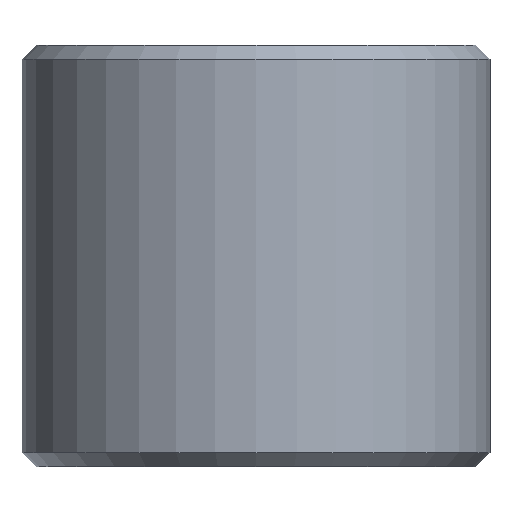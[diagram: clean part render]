
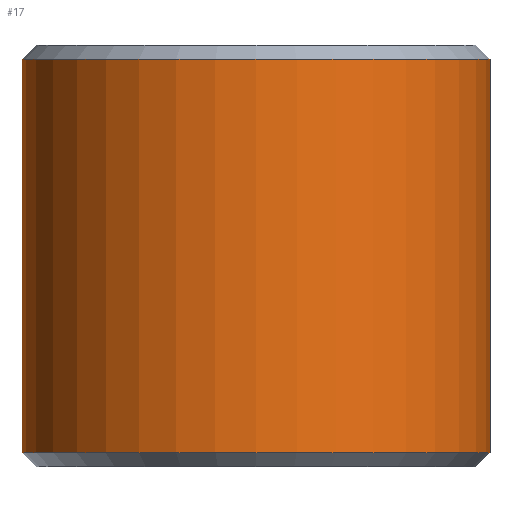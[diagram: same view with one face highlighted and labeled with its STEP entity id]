
A CAD part, front view. The second image highlights one B-rep face of the part: STEP entity #17.
In plain terms, the highlighted cylindrical face has radius 50 mm (diameter 100 mm), a partial arc.
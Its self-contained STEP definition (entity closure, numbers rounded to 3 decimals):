
#17 = ADVANCED_FACE ( 'NONE', ( #291 ), #151, .T. ) ;
#24 = CARTESIAN_POINT ( 'NONE',  ( -50., 0., -42. ) ) ;
#33 = CARTESIAN_POINT ( 'NONE',  ( 50., 0., 42. ) ) ;
#34 = ORIENTED_EDGE ( 'NONE', *, *, #235, .T. ) ;
#42 = AXIS2_PLACEMENT_3D ( 'NONE', #237, #58, #340 ) ;
#58 = DIRECTION ( 'NONE',  ( 0., 0., 1. ) ) ;
#61 = CIRCLE ( 'NONE', #42, 50. ) ;
#66 = EDGE_LOOP ( 'NONE', ( #395, #256, #34, #387 ) ) ;
#75 = VERTEX_POINT ( 'NONE', #304 ) ;
#76 = DIRECTION ( 'NONE',  ( 1., 0., 0. ) ) ;
#79 = VECTOR ( 'NONE', #191, 1000. ) ;
#85 = DIRECTION ( 'NONE',  ( 0., 0., -1. ) ) ;
#94 = CARTESIAN_POINT ( 'NONE',  ( -50., 0., 45. ) ) ;
#112 = CARTESIAN_POINT ( 'NONE',  ( 0., 0., 45. ) ) ;
#113 = CIRCLE ( 'NONE', #127, 50. ) ;
#127 = AXIS2_PLACEMENT_3D ( 'NONE', #285, #245, #76 ) ;
#151 = CYLINDRICAL_SURFACE ( 'NONE', #249, 50. ) ;
#171 = VERTEX_POINT ( 'NONE', #33 ) ;
#191 = DIRECTION ( 'NONE',  ( 0., 0., -1. ) ) ;
#219 = DIRECTION ( 'NONE',  ( -1., 0., 0. ) ) ;
#222 = EDGE_CURVE ( 'NONE', #171, #384, #228, .T. ) ;
#228 = LINE ( 'NONE', #305, #79 ) ;
#235 = EDGE_CURVE ( 'NONE', #75, #258, #400, .T. ) ;
#237 = CARTESIAN_POINT ( 'NONE',  ( 0., 0., -42. ) ) ;
#245 = DIRECTION ( 'NONE',  ( 0., 0., -1. ) ) ;
#249 = AXIS2_PLACEMENT_3D ( 'NONE', #112, #85, #219 ) ;
#252 = EDGE_CURVE ( 'NONE', #258, #384, #61, .T. ) ;
#256 = ORIENTED_EDGE ( 'NONE', *, *, #434, .T. ) ;
#258 = VERTEX_POINT ( 'NONE', #24 ) ;
#285 = CARTESIAN_POINT ( 'NONE',  ( 0., 0., 42. ) ) ;
#291 = FACE_OUTER_BOUND ( 'NONE', #66, .T. ) ;
#304 = CARTESIAN_POINT ( 'NONE',  ( -50., 0., 42. ) ) ;
#305 = CARTESIAN_POINT ( 'NONE',  ( 50., 0., 45. ) ) ;
#320 = CARTESIAN_POINT ( 'NONE',  ( 50., 0., -42. ) ) ;
#340 = DIRECTION ( 'NONE',  ( 1., 0., 0. ) ) ;
#384 = VERTEX_POINT ( 'NONE', #320 ) ;
#387 = ORIENTED_EDGE ( 'NONE', *, *, #252, .T. ) ;
#395 = ORIENTED_EDGE ( 'NONE', *, *, #222, .F. ) ;
#400 = LINE ( 'NONE', #94, #406 ) ;
#406 = VECTOR ( 'NONE', #439, 1000. ) ;
#434 = EDGE_CURVE ( 'NONE', #171, #75, #113, .T. ) ;
#439 = DIRECTION ( 'NONE',  ( 0., 0., -1. ) ) ;
